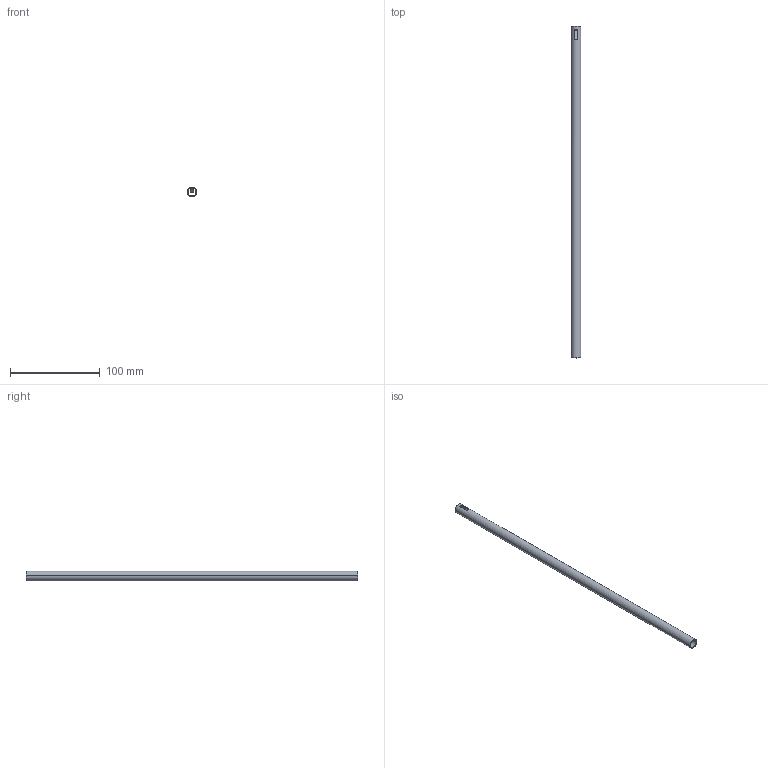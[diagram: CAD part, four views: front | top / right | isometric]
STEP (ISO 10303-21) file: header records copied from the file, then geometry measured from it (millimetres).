
FILE_DESCRIPTION (( 'STEP AP214' ), '1' );
FILE_NAME ('Relingsrohr_2S-Rundrel_Interwood_P760604300_400.step', '2010-09-07T12:59:33', ( 'grass' ), ( '' ), 'SwSTEP 2.0', 'SolidWorks 2010', '' );
FILE_SCHEMA (( 'AUTOMOTIVE_DESIGN' ));
Length unit declared in the file: millimetre
Products named in the file (1): Relingsrohr_2S-Rundrel_Interwood_P760604300_400
Bounding box: 11 x 369 x 11 mm (x, y, z)
Volume: 11590.2 mm3; surface area: 23288.3 mm2
Topology: 1 solids, 1 shells, 14 faces, 34 edges, 22 vertices
Faces by surface type: plane 10, cylinder 4
Entity records: 476 total; most frequent: CARTESIAN_POINT 77, DIRECTION 72, ORIENTED_EDGE 68, EDGE_CURVE 34, AXIS2_PLACEMENT_3D 25, LINE 22, VECTOR 22, VERTEX_POINT 22
